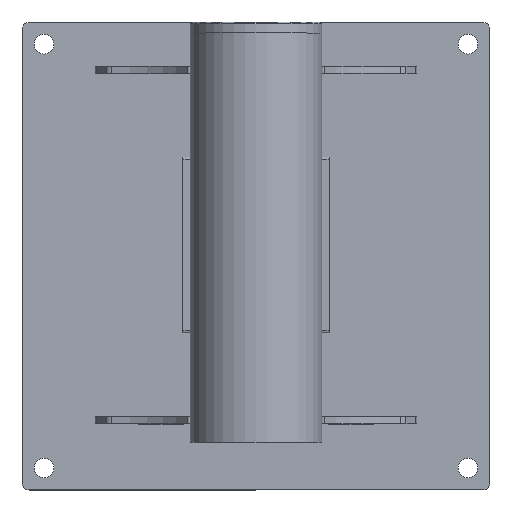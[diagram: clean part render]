
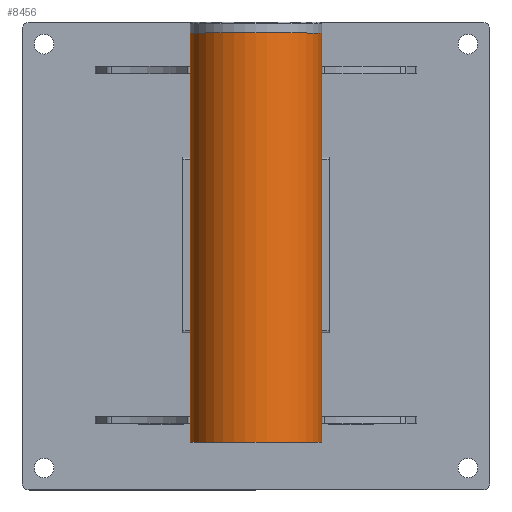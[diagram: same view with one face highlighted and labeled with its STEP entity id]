
A CAD part, top view. The second image highlights one B-rep face of the part: STEP entity #8456.
In plain terms, the highlighted cylindrical face has radius 57.15 mm (diameter 114.3 mm), a partial arc.
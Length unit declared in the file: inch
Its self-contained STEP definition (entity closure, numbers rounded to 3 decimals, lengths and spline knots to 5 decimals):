
#26 = LINE ( 'NONE', #5389, #578 ) ;
#344 = VECTOR ( 'NONE', #3238, 39.37008 ) ;
#493 = LINE ( 'NONE', #7842, #344 ) ;
#524 = DIRECTION ( 'NONE',  ( 0., 0., -1. ) ) ;
#578 = VECTOR ( 'NONE', #3335, 39.37008 ) ;
#748 = DIRECTION ( 'NONE',  ( 1., 0., 0. ) ) ;
#1221 = DIRECTION ( 'NONE',  ( -1., 0., 0. ) ) ;
#1785 = CARTESIAN_POINT ( 'NONE',  ( 0., 0., 14. ) ) ;
#2012 = CARTESIAN_POINT ( 'NONE',  ( 0., 0., 0. ) ) ;
#2019 = AXIS2_PLACEMENT_3D ( 'NONE', #1785, #5896, #7912 ) ;
#2074 = ORIENTED_EDGE ( 'NONE', *, *, #6683, .T. ) ;
#2271 = CIRCLE ( 'NONE', #3664, 2.25 ) ;
#2297 = VERTEX_POINT ( 'NONE', #3764 ) ;
#3238 = DIRECTION ( 'NONE',  ( 0., 0., -1. ) ) ;
#3271 = EDGE_CURVE ( 'NONE', #4272, #8471, #26, .T. ) ;
#3335 = DIRECTION ( 'NONE',  ( 0., 0., -1. ) ) ;
#3664 = AXIS2_PLACEMENT_3D ( 'NONE', #2012, #6731, #748 ) ;
#3764 = CARTESIAN_POINT ( 'NONE',  ( 2.25, 0., 14. ) ) ;
#3801 = CARTESIAN_POINT ( 'NONE',  ( 2.25, 0., 0. ) ) ;
#3837 = FACE_OUTER_BOUND ( 'NONE', #4850, .T. ) ;
#3964 = ORIENTED_EDGE ( 'NONE', *, *, #3271, .F. ) ;
#4194 = ORIENTED_EDGE ( 'NONE', *, *, #7985, .T. ) ;
#4272 = VERTEX_POINT ( 'NONE', #7876 ) ;
#4283 = VERTEX_POINT ( 'NONE', #3801 ) ;
#4850 = EDGE_LOOP ( 'NONE', ( #7961, #4194, #2074, #3964 ) ) ;
#5389 = CARTESIAN_POINT ( 'NONE',  ( -2.25, 0., 14. ) ) ;
#5789 = CIRCLE ( 'NONE', #2019, 2.25 ) ;
#5896 = DIRECTION ( 'NONE',  ( 0., 0., 1. ) ) ;
#6069 = AXIS2_PLACEMENT_3D ( 'NONE', #7830, #524, #1221 ) ;
#6505 = CYLINDRICAL_SURFACE ( 'NONE', #6069, 2.25 ) ;
#6683 = EDGE_CURVE ( 'NONE', #4283, #8471, #2271, .T. ) ;
#6731 = DIRECTION ( 'NONE',  ( 0., 0., 1. ) ) ;
#7128 = CARTESIAN_POINT ( 'NONE',  ( -2.25, 0., 0. ) ) ;
#7830 = CARTESIAN_POINT ( 'NONE',  ( 0., 0., 14. ) ) ;
#7842 = CARTESIAN_POINT ( 'NONE',  ( 2.25, 0., 14. ) ) ;
#7876 = CARTESIAN_POINT ( 'NONE',  ( -2.25, 0., 14. ) ) ;
#7912 = DIRECTION ( 'NONE',  ( 1., 0., 0. ) ) ;
#7961 = ORIENTED_EDGE ( 'NONE', *, *, #8467, .F. ) ;
#7985 = EDGE_CURVE ( 'NONE', #2297, #4283, #493, .T. ) ;
#8456 = ADVANCED_FACE ( 'NONE', ( #3837 ), #6505, .T. ) ;
#8467 = EDGE_CURVE ( 'NONE', #2297, #4272, #5789, .T. ) ;
#8471 = VERTEX_POINT ( 'NONE', #7128 ) ;
